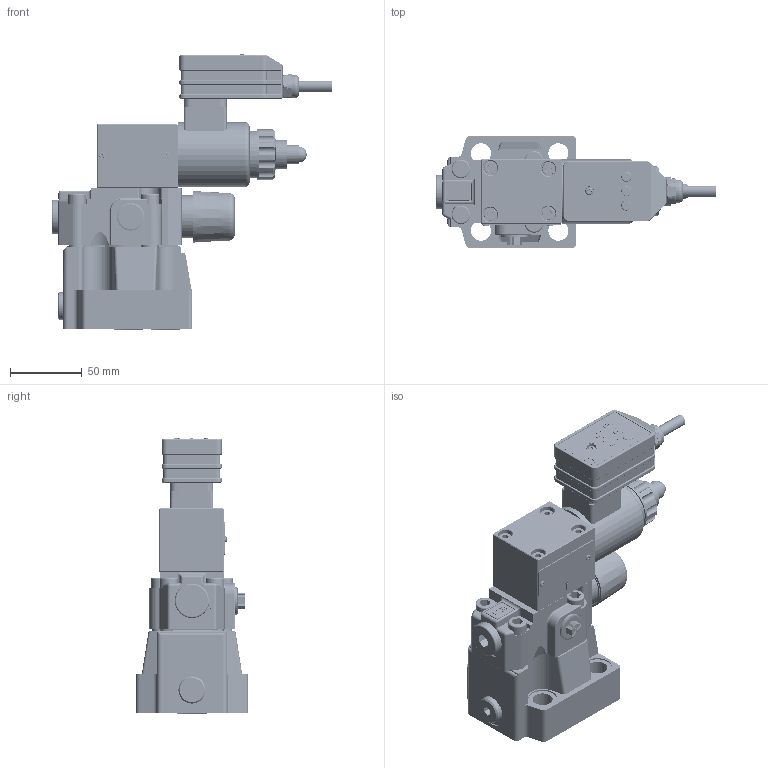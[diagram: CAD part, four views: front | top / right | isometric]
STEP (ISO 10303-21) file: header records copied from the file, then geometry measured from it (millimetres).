
FILE_DESCRIPTION(/* description */ (''),/* implementation_level */ '2;1');
FILE_NAME(/* name */ 'DBEME10-7XJ.stp',/* time_stamp */ '2024-06-21T14:08:18+08:00',/* author */ (''),/* organization */ (''),/* preprocessor_version */ 'ST-DEVELOPER v16.7',/* originating_system */ 'SIEMENS PLM Software NX 12.0',/* authorisation */ '');
FILE_SCHEMA (('AUTOMOTIVE_DESIGN { 1 0 10303 214 3 1 1 1 }'));
Products named in the file (1): DBEME10
Bounding box: 195.56 x 78 x 191.82 mm (x, y, z)
Volume: 560098.6 mm3; surface area: 235699.2 mm2
Topology: 80 solids, 91 shells, 3349 faces, 8554 edges, 5582 vertices
Faces by surface type: plane 1562, cylinder 1144, cone 230, bspline 144, extrusion 139, torus 115, sphere 12, revolution 3
Full cylindrical faces by diameter (mm): 0.8 x2, 1 x4, 1.5 x5, 1.6 x1, 1.8 x6, 2 x7, 3 x7, 3.3 x14, 3.4 x22, 4 x5, 4.2 x1, 4.3 x48, 4.8 x1, 5 x125, 5.4 x1, 5.5 x3, 5.6 x3, 6 x5, 6.7 x1, 7 x14, 7.49 x1, 7.5 x1, 7.54 x1, 8 x85, 8.3 x1, 8.4 x6, 8.5 x4, 9 x3, 9.5 x1, 9.8 x1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
Entity records: 248430 total; most frequent: CARTESIAN_POINT 173975, ORIENTED_EDGE 13924, DIRECTION 13299, EDGE_CURVE 6962, VERTEX_POINT 4792, AXIS2_PLACEMENT_3D 4767, EDGE_LOOP 3871, VECTOR 3762
